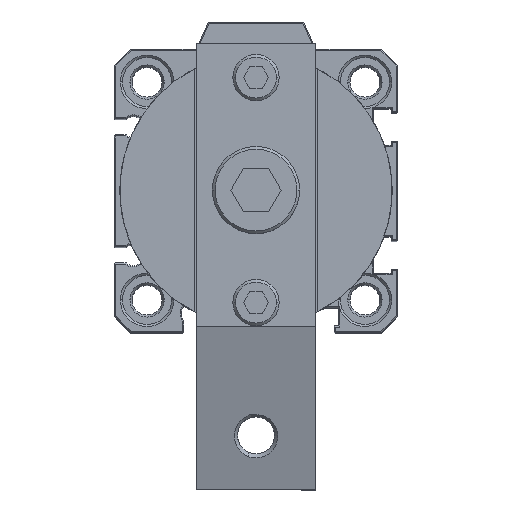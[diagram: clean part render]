
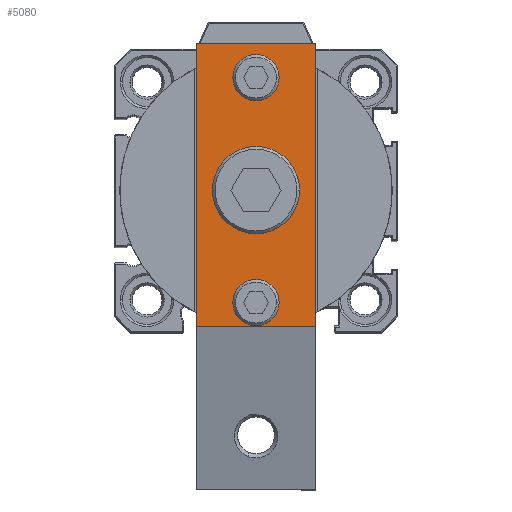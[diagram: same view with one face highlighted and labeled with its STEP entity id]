
A CAD part, top view. The second image highlights one B-rep face of the part: STEP entity #5080.
In plain terms, the highlighted planar face has unit normal (0, 0, 1).
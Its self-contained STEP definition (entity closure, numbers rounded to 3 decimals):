
#44 = VERTEX_POINT ( 'NONE', #12485 ) ;
#451 = DIRECTION ( 'NONE',  ( -1., 0., 0. ) ) ;
#504 = VERTEX_POINT ( 'NONE', #14758 ) ;
#529 = AXIS2_PLACEMENT_3D ( 'NONE', #15874, #6374, #4567 ) ;
#1149 = DIRECTION ( 'NONE',  ( 0., 0., -1. ) ) ;
#1323 = AXIS2_PLACEMENT_3D ( 'NONE', #6322, #10048, #451 ) ;
#1331 = EDGE_CURVE ( 'NONE', #3849, #18742, #6161, .T. ) ;
#1579 = CIRCLE ( 'NONE', #21575, 3.2 ) ;
#2336 = AXIS2_PLACEMENT_3D ( 'NONE', #14600, #12364, #20166 ) ;
#2810 = FACE_BOUND ( 'NONE', #13149, .T. ) ;
#2999 = EDGE_CURVE ( 'NONE', #16996, #22243, #3953, .T. ) ;
#3111 = ORIENTED_EDGE ( 'NONE', *, *, #6391, .T. ) ;
#3283 = AXIS2_PLACEMENT_3D ( 'NONE', #5358, #10997, #10922 ) ;
#3294 = CARTESIAN_POINT ( 'NONE',  ( 82., 0., 22. ) ) ;
#3298 = DIRECTION ( 'NONE',  ( 0., -1., 0. ) ) ;
#3477 = DIRECTION ( 'NONE',  ( -1., 0., 0. ) ) ;
#3541 = DIRECTION ( 'NONE',  ( -1., 0., 0. ) ) ;
#3849 = VERTEX_POINT ( 'NONE', #11749 ) ;
#3953 = CIRCLE ( 'NONE', #3283, 3.2 ) ;
#4567 = DIRECTION ( 'NONE',  ( -1., 0., 0. ) ) ;
#4811 = CARTESIAN_POINT ( 'NONE',  ( 55., 11., 22. ) ) ;
#5080 = ADVANCED_FACE ( 'NONE', ( #23530, #8464, #23808, #2810 ), #22057, .T. ) ;
#5358 = CARTESIAN_POINT ( 'NONE',  ( 34.35, 11., 22. ) ) ;
#5363 = CARTESIAN_POINT ( 'NONE',  ( 30., 0., 22. ) ) ;
#5586 = EDGE_CURVE ( 'NONE', #5696, #23626, #23718, .T. ) ;
#5639 = ORIENTED_EDGE ( 'NONE', *, *, #7164, .F. ) ;
#5696 = VERTEX_POINT ( 'NONE', #3294 ) ;
#5858 = EDGE_LOOP ( 'NONE', ( #22997, #22520 ) ) ;
#6161 = CIRCLE ( 'NONE', #529, 5.25 ) ;
#6322 = CARTESIAN_POINT ( 'NONE',  ( 34.35, 11., 22. ) ) ;
#6374 = DIRECTION ( 'NONE',  ( 0., 0., -1. ) ) ;
#6391 = EDGE_CURVE ( 'NONE', #22243, #16996, #11583, .T. ) ;
#6758 = VERTEX_POINT ( 'NONE', #22801 ) ;
#7164 = EDGE_CURVE ( 'NONE', #504, #5696, #9096, .T. ) ;
#8396 = ORIENTED_EDGE ( 'NONE', *, *, #1331, .T. ) ;
#8464 = FACE_BOUND ( 'NONE', #12842, .T. ) ;
#9096 = LINE ( 'NONE', #14483, #15319 ) ;
#9385 = AXIS2_PLACEMENT_3D ( 'NONE', #12606, #21972, #16386 ) ;
#9756 = DIRECTION ( 'NONE',  ( 0., -1., 0. ) ) ;
#9829 = EDGE_CURVE ( 'NONE', #19891, #44, #17445, .T. ) ;
#10048 = DIRECTION ( 'NONE',  ( 0., 0., -1. ) ) ;
#10820 = VECTOR ( 'NONE', #11821, 1000. ) ;
#10826 = EDGE_LOOP ( 'NONE', ( #23026, #5639, #18141, #12400 ) ) ;
#10922 = DIRECTION ( 'NONE',  ( -1., 0., 0. ) ) ;
#10997 = DIRECTION ( 'NONE',  ( 0., 0., -1. ) ) ;
#11583 = CIRCLE ( 'NONE', #1323, 3.2 ) ;
#11749 = CARTESIAN_POINT ( 'NONE',  ( 49.75, 11., 22. ) ) ;
#11821 = DIRECTION ( 'NONE',  ( -1., 0., 0. ) ) ;
#12364 = DIRECTION ( 'NONE',  ( 0., 0., -1. ) ) ;
#12400 = ORIENTED_EDGE ( 'NONE', *, *, #15919, .T. ) ;
#12485 = CARTESIAN_POINT ( 'NONE',  ( 78.85, 11., 22. ) ) ;
#12606 = CARTESIAN_POINT ( 'NONE',  ( 40., 11., 22. ) ) ;
#12774 = EDGE_CURVE ( 'NONE', #44, #19891, #1579, .T. ) ;
#12818 = LINE ( 'NONE', #21017, #14298 ) ;
#12838 = CARTESIAN_POINT ( 'NONE',  ( 72.45, 11., 22. ) ) ;
#12842 = EDGE_LOOP ( 'NONE', ( #8396, #19969 ) ) ;
#13149 = EDGE_LOOP ( 'NONE', ( #19082, #3111 ) ) ;
#13661 = AXIS2_PLACEMENT_3D ( 'NONE', #4811, #1149, #19900 ) ;
#14298 = VECTOR ( 'NONE', #9756, 1000. ) ;
#14483 = CARTESIAN_POINT ( 'NONE',  ( 82., 11., 22. ) ) ;
#14600 = CARTESIAN_POINT ( 'NONE',  ( 75.65, 11., 22. ) ) ;
#14651 = CIRCLE ( 'NONE', #13661, 5.25 ) ;
#14758 = CARTESIAN_POINT ( 'NONE',  ( 82., 22., 22. ) ) ;
#15319 = VECTOR ( 'NONE', #3298, 1000. ) ;
#15643 = EDGE_CURVE ( 'NONE', #18742, #3849, #14651, .T. ) ;
#15874 = CARTESIAN_POINT ( 'NONE',  ( 55., 11., 22. ) ) ;
#15919 = EDGE_CURVE ( 'NONE', #6758, #23626, #12818, .T. ) ;
#16386 = DIRECTION ( 'NONE',  ( 1., 0., 0. ) ) ;
#16535 = CARTESIAN_POINT ( 'NONE',  ( 75.65, 11., 22. ) ) ;
#16996 = VERTEX_POINT ( 'NONE', #21383 ) ;
#17445 = CIRCLE ( 'NONE', #2336, 3.2 ) ;
#17657 = CARTESIAN_POINT ( 'NONE',  ( 37.55, 11., 22. ) ) ;
#18141 = ORIENTED_EDGE ( 'NONE', *, *, #22051, .T. ) ;
#18742 = VERTEX_POINT ( 'NONE', #24388 ) ;
#19082 = ORIENTED_EDGE ( 'NONE', *, *, #2999, .T. ) ;
#19645 = LINE ( 'NONE', #24538, #10820 ) ;
#19891 = VERTEX_POINT ( 'NONE', #12838 ) ;
#19900 = DIRECTION ( 'NONE',  ( -1., 0., 0. ) ) ;
#19969 = ORIENTED_EDGE ( 'NONE', *, *, #15643, .T. ) ;
#20166 = DIRECTION ( 'NONE',  ( -1., 0., 0. ) ) ;
#20385 = DIRECTION ( 'NONE',  ( 0., 0., -1. ) ) ;
#20447 = CARTESIAN_POINT ( 'NONE',  ( 40., 0., 22. ) ) ;
#21017 = CARTESIAN_POINT ( 'NONE',  ( 30., 11., 22. ) ) ;
#21383 = CARTESIAN_POINT ( 'NONE',  ( 31.15, 11., 22. ) ) ;
#21575 = AXIS2_PLACEMENT_3D ( 'NONE', #16535, #20385, #3477 ) ;
#21972 = DIRECTION ( 'NONE',  ( 0., 0., 1. ) ) ;
#22051 = EDGE_CURVE ( 'NONE', #504, #6758, #19645, .T. ) ;
#22057 = PLANE ( 'NONE',  #9385 ) ;
#22243 = VERTEX_POINT ( 'NONE', #17657 ) ;
#22520 = ORIENTED_EDGE ( 'NONE', *, *, #12774, .T. ) ;
#22801 = CARTESIAN_POINT ( 'NONE',  ( 30., 22., 22. ) ) ;
#22997 = ORIENTED_EDGE ( 'NONE', *, *, #9829, .T. ) ;
#23026 = ORIENTED_EDGE ( 'NONE', *, *, #5586, .F. ) ;
#23110 = VECTOR ( 'NONE', #3541, 1000. ) ;
#23530 = FACE_OUTER_BOUND ( 'NONE', #10826, .T. ) ;
#23626 = VERTEX_POINT ( 'NONE', #5363 ) ;
#23718 = LINE ( 'NONE', #20447, #23110 ) ;
#23808 = FACE_BOUND ( 'NONE', #5858, .T. ) ;
#24388 = CARTESIAN_POINT ( 'NONE',  ( 60.25, 11., 22. ) ) ;
#24538 = CARTESIAN_POINT ( 'NONE',  ( 40., 22., 22. ) ) ;
